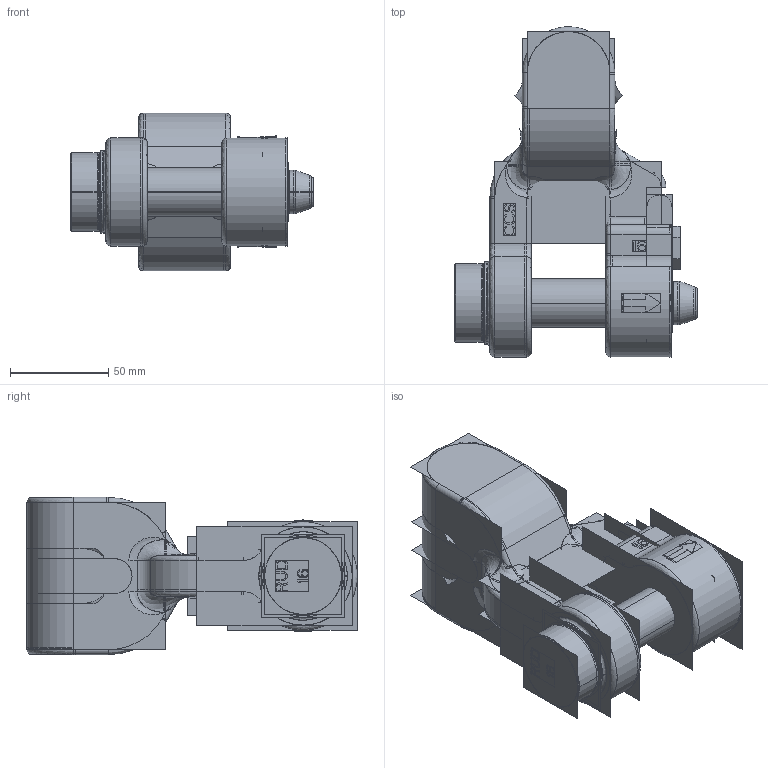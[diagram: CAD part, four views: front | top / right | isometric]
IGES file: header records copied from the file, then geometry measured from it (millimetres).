
Start section:  PTC IGES file: ICE-CCS-16_7912247_m36169-p-01.igs
Global section: file name: ICE-CCS-16_7912247_m36169-p-01.igs; native system: Creo Parametric by PTC Inc.; preprocessor: 2022162; author: Tristan.Roth; organization: Unknown; date: 20240924.133504; units: millimetre
Bounding box: 123.5 x 168.01 x 80 mm (x, y, z)
Surface area: 169453.8 mm2 (no closed solid volume)
Topology: 0 solids, 0 shells, 1502 faces, 11534 edges, 11828 vertices
Faces by surface type: bspline 1208, revolution 294
